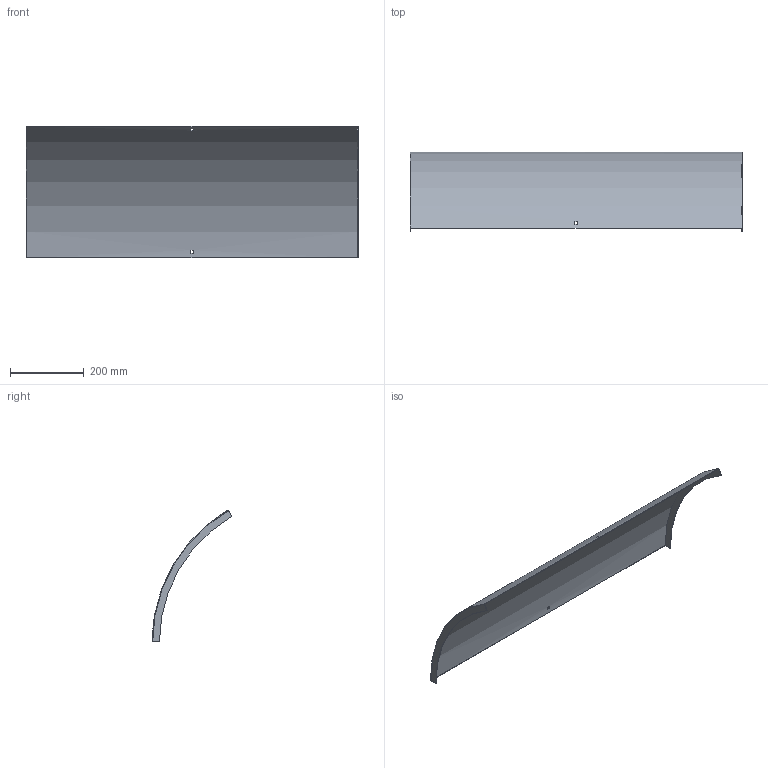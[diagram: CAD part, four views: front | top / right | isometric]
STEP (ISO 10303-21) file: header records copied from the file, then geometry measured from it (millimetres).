
FILE_DESCRIPTION (( 'STEP AP214' ), '1' );
FILE_NAME ('B2_41N3J900.step', '2025-02-21T10:42:33', ( '' ), ( '' ), 'SwSTEP 2.0', 'SolidWorks 2023', '' );
FILE_SCHEMA (( 'AUTOMOTIVE_DESIGN' ));
Length unit declared in the file: millimetre
Products named in the file (1): B2_41N3J900
Bounding box: 903 x 217 x 358.53 mm (x, y, z)
Volume: 609426.8 mm3; surface area: 816722.4 mm2
Topology: 1 solids, 1 shells, 18 faces, 48 edges, 32 vertices
Faces by surface type: plane 14, cylinder 4
Entity records: 599 total; most frequent: DIRECTION 102, CARTESIAN_POINT 99, ORIENTED_EDGE 96, EDGE_CURVE 48, AXIS2_PLACEMENT_3D 35, VERTEX_POINT 32, VECTOR 32, LINE 32
